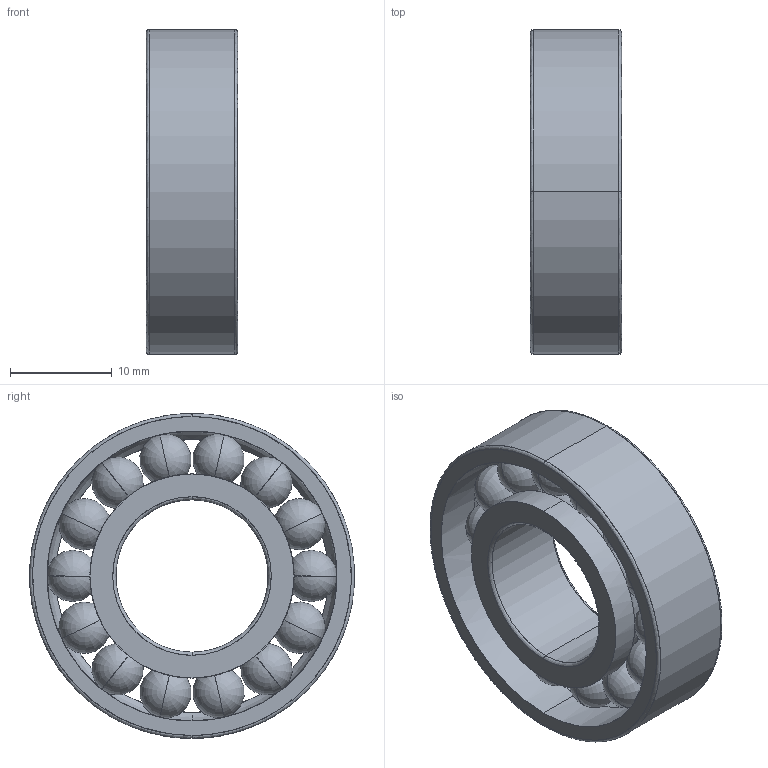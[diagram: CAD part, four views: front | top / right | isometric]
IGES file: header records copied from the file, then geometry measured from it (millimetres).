
Start section: SolidWorks IGES file using analytic representation for surfaces
Global section: file name: D:\Neil Abroug\Bureau\roulement_infrared.IGS; native system: SolidWorks 2007; preprocessor: SolidWorks 2007; author: Neil ABROUG; date: 080518.162734; units: millimetre
Bounding box: 9 x 32 x 32 mm (x, y, z)
Surface area: 4429.8 mm2 (no closed solid volume)
Topology: 0 solids, 0 shells, 82 faces, 1480 edges, 1424 vertices
Faces by surface type: bspline 42, revolution 40
